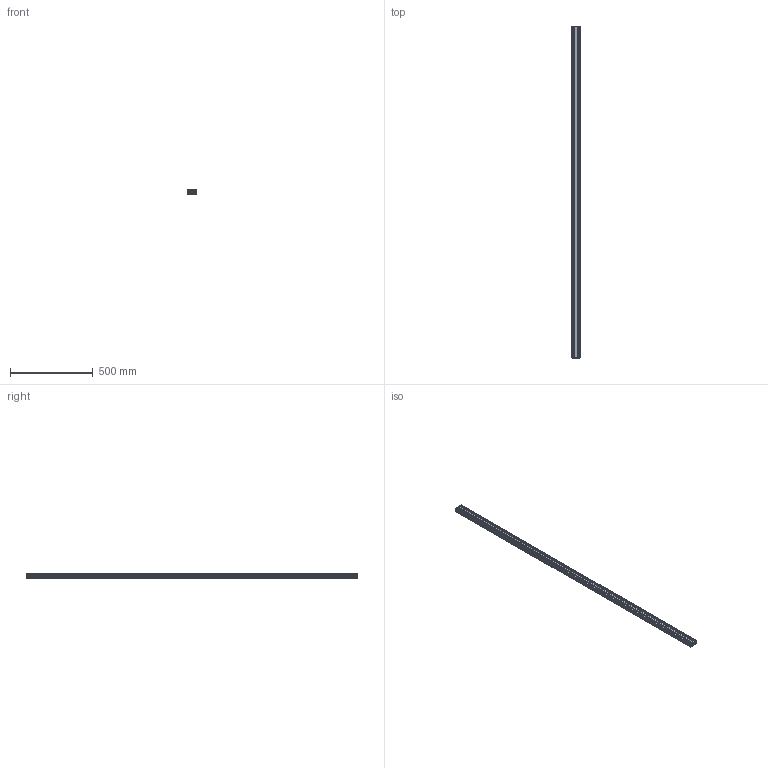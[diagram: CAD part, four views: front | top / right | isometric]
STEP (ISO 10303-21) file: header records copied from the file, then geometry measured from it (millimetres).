
FILE_DESCRIPTION (( 'STEP AP214' ), '1' );
FILE_NAME ('PEP5025-2000.STEP', '2019-10-30T01:25:56', ( '微软用户' ), ( '微软中国' ), 'SwSTEP 2.0', 'SolidWorks 2016', '' );
FILE_SCHEMA (( 'AUTOMOTIVE_DESIGN' ));
Length unit declared in the file: millimetre
Products named in the file (1): PEP5025-2000
Bounding box: 50 x 2000 x 25 mm (x, y, z)
Volume: 868793.3 mm3; surface area: 886451.5 mm2
Topology: 1 solids, 1 shells, 204 faces, 606 edges, 404 vertices
Faces by surface type: plane 110, cylinder 94
Entity records: 9184 total; most frequent: CARTESIAN_POINT 1215, ORIENTED_EDGE 1212, DIRECTION 1204, EDGE_CURVE 606, LINE 418, VECTOR 418, VERTEX_POINT 404, AXIS2_PLACEMENT_3D 393
